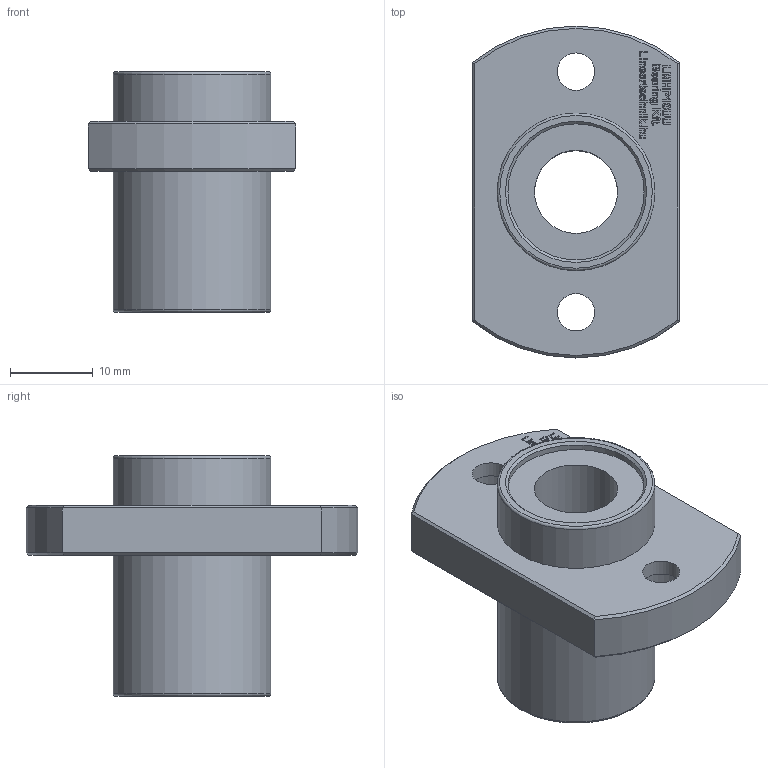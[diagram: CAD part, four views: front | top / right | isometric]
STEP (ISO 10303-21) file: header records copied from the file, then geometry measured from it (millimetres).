
FILE_DESCRIPTION(/* description */ (''),/* implementation_level */ '2;1');
FILE_NAME(/* name */ 'LMHP10UU',/* time_stamp */ '2019-07-09T13:42:45+02:00',/* author */ ('VĂ©gh MĂˇtĂ©'),/* organization */ ('Bearing Kft'),/* preprocessor_version */ 'ST-DEVELOPER v16.7',/* originating_system */ 'DEX',/* authorisation */ $);
FILE_SCHEMA (('AUTOMOTIVE_DESIGN {1 0 10303 214 3 1 1}'));
Length unit declared in the file: millimetre
Products named in the file (1): LMHP10UU
Bounding box: 25 x 40 x 29 mm (x, y, z)
Volume: 9119.4 mm3; surface area: 4848 mm2
Topology: 1 solids, 1 shells, 343 faces, 851 edges, 564 vertices
Faces by surface type: plane 259, bspline 62, cylinder 14, cone 6, torus 2
Full cylindrical faces by diameter (mm): 4.5 x2, 7.5 x2, 10 x1, 16.4 x2, 19 x2
Entity records: 12697 total; most frequent: CARTESIAN_POINT 4961, ORIENTED_EDGE 1666, DIRECTION 1301, EDGE_CURVE 833, LINE 665, VECTOR 665, VERTEX_POINT 562, EDGE_LOOP 419
